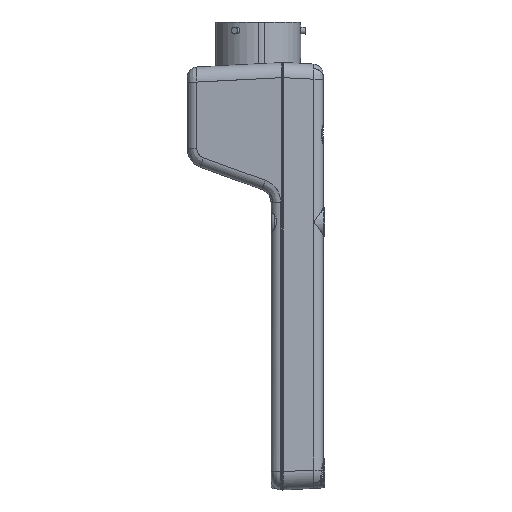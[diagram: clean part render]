
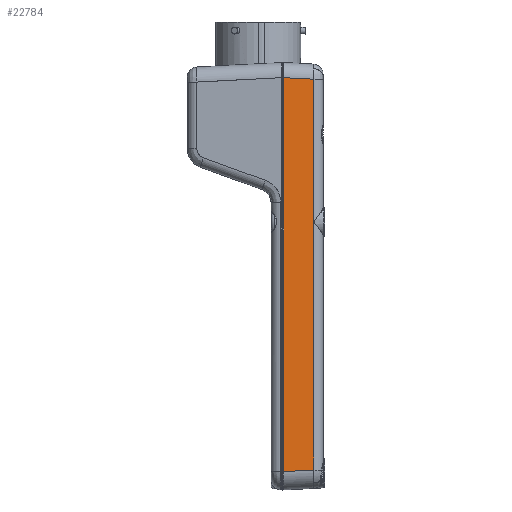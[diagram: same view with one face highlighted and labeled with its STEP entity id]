
A CAD part, left-side view. The second image highlights one B-rep face of the part: STEP entity #22784.
In plain terms, the highlighted planar face has unit normal (-0.999, -0.052, 0).
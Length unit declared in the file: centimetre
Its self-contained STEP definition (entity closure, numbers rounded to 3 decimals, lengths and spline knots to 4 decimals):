
#2923=VECTOR('',#52860,1.);
#2924=VECTOR('',#52865,1.);
#2925=VECTOR('',#52867,1.);
#3007=VECTOR('',#53072,1.);
#3925=LINE('',#44641,#2923);
#3926=LINE('',#44645,#2924);
#3927=LINE('',#44647,#2925);
#4009=LINE('',#45369,#3007);
#4492=PLANE('',#25198);
#6429=VERTEX_POINT('',#37321);
#6430=VERTEX_POINT('',#37347);
#6692=VERTEX_POINT('',#44644);
#6693=VERTEX_POINT('',#44648);
#11562=EDGE_CURVE('',#6430,#6429,#3925,.T.);
#11564=EDGE_CURVE('',#6429,#6692,#3926,.T.);
#11565=EDGE_CURVE('',#6693,#6430,#3927,.T.);
#11701=EDGE_CURVE('',#6692,#6693,#4009,.T.);
#17542=ORIENTED_EDGE('',*,*,#11564,.T.);
#17543=ORIENTED_EDGE('',*,*,#11701,.T.);
#17544=ORIENTED_EDGE('',*,*,#11565,.T.);
#17545=ORIENTED_EDGE('',*,*,#11562,.T.);
#19922=EDGE_LOOP('',(#17542,#17543,#17544,#17545));
#21384=FACE_BOUND('',#19922,.T.);
#22784=ADVANCED_FACE('',(#21384),#4492,.T.);
#25198=AXIS2_PLACEMENT_3D('',#45368,#53071,$);
#37321=CARTESIAN_POINT('',(-8.0536,-0.8857,-6.0543));
#37347=CARTESIAN_POINT('',(-8.1,0.,-6.1008));
#44641=CARTESIAN_POINT('',(-8.1,0.,-6.1008));
#44644=CARTESIAN_POINT('',(-8.0536,-0.8857,5.6042));
#44645=CARTESIAN_POINT('',(-8.0536,-0.8857,-6.0543));
#44647=CARTESIAN_POINT('',(-8.1,0.,5.6506));
#44648=CARTESIAN_POINT('',(-8.1,0.,5.6506));
#45368=CARTESIAN_POINT('',(-8.0768,-0.4429,-0.2251));
#45369=CARTESIAN_POINT('',(-8.0536,-0.8857,5.6042));
#52860=DIRECTION('',(0.052,-0.997,0.052));
#52865=DIRECTION('',(0.,0.,1.));
#52867=DIRECTION('',(0.,0.,-1.));
#53071=DIRECTION('',(-0.999,-0.052,0.));
#53072=DIRECTION('',(-0.052,0.997,0.052));
